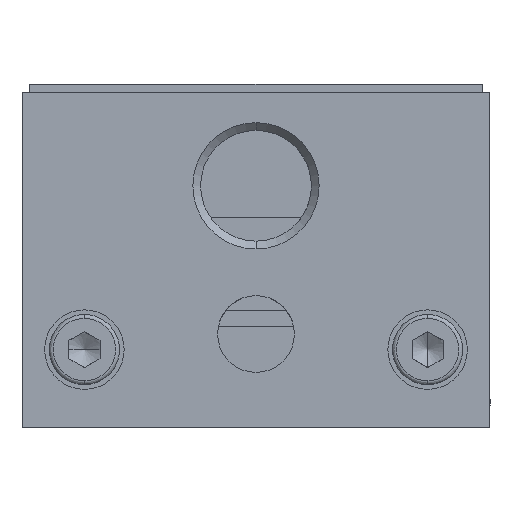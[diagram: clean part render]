
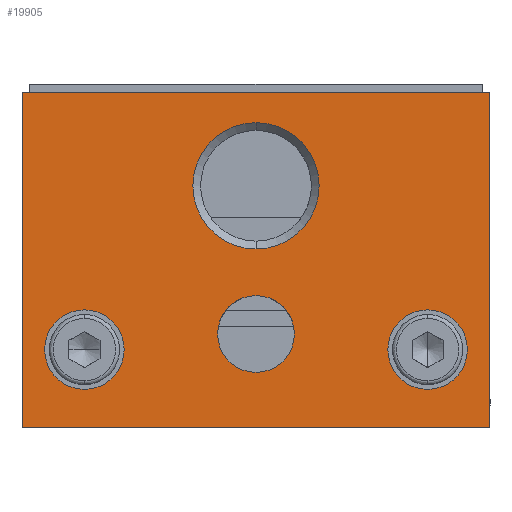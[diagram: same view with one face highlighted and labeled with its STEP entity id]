
A CAD part, left-side view. The second image highlights one B-rep face of the part: STEP entity #19905.
In plain terms, the highlighted planar face has unit normal (-1, 0, 0).
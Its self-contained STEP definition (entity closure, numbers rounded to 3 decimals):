
#9368 = DIRECTION ( 'NONE',  ( 0., 0., 1. ) ) ;
#9369 = DIRECTION ( 'NONE',  ( 1., 0., 0. ) ) ;
#9370 = CARTESIAN_POINT ( 'NONE',  ( -7., 15., 15.5 ) ) ;
#9371 = AXIS2_PLACEMENT_3D ( 'NONE', #9370, #9369, #9368 ) ;
#9372 = CIRCLE ( 'NONE', #9371, 4.05 ) ;
#9399 = DIRECTION ( 'NONE',  ( 0., -1., 0. ) ) ;
#9400 = DIRECTION ( 'NONE',  ( 1., 0., 0. ) ) ;
#9401 = CARTESIAN_POINT ( 'NONE',  ( -7., 15., 6. ) ) ;
#9402 = AXIS2_PLACEMENT_3D ( 'NONE', #9401, #9400, #9399 ) ;
#9407 = CIRCLE ( 'NONE', #9402, 2.459 ) ;
#9410 = DIRECTION ( 'NONE',  ( 0., -1., 0. ) ) ;
#9411 = DIRECTION ( 'NONE',  ( 1., 0., 0. ) ) ;
#9412 = CARTESIAN_POINT ( 'NONE',  ( -7., 4., 5. ) ) ;
#9413 = AXIS2_PLACEMENT_3D ( 'NONE', #9412, #9411, #9410 ) ;
#9414 = CIRCLE ( 'NONE', #9413, 2.55 ) ;
#9455 = DIRECTION ( 'NONE',  ( 0., -1., 0. ) ) ;
#9456 = DIRECTION ( 'NONE',  ( 1., 0., 0. ) ) ;
#9457 = CARTESIAN_POINT ( 'NONE',  ( -7., 26., 5. ) ) ;
#9458 = AXIS2_PLACEMENT_3D ( 'NONE', #9457, #9456, #9455 ) ;
#9459 = CIRCLE ( 'NONE', #9458, 2.55 ) ;
#9476 = CARTESIAN_POINT ( 'NONE',  ( -7., 0., 21.5 ) ) ;
#9477 = DIRECTION ( 'NONE',  ( 0., 1., 0. ) ) ;
#9478 = VECTOR ( 'NONE', #9477, 1000. ) ;
#9479 = CARTESIAN_POINT ( 'NONE',  ( -7., 15., 21.5 ) ) ;
#9480 = LINE ( 'NONE', #9479, #9478 ) ;
#9481 = CARTESIAN_POINT ( 'NONE',  ( -7., 30., 21.5 ) ) ;
#9757 = CARTESIAN_POINT ( 'NONE',  ( -7., 0., 0. ) ) ;
#9758 = DIRECTION ( 'NONE',  ( 0., 0., 1. ) ) ;
#9759 = VECTOR ( 'NONE', #9758, 1000. ) ;
#9760 = CARTESIAN_POINT ( 'NONE',  ( -7., 0., 10.75 ) ) ;
#9761 = LINE ( 'NONE', #9760, #9759 ) ;
#9769 = DIRECTION ( 'NONE',  ( 0., 1., 0. ) ) ;
#9770 = VECTOR ( 'NONE', #9769, 1000. ) ;
#9771 = CARTESIAN_POINT ( 'NONE',  ( -7., 30., 0. ) ) ;
#9772 = LINE ( 'NONE', #9771, #9770 ) ;
#9773 = CARTESIAN_POINT ( 'NONE',  ( -7., 30., 0. ) ) ;
#9774 = DIRECTION ( 'NONE',  ( 0., 0., 1. ) ) ;
#9775 = VECTOR ( 'NONE', #9774, 1000. ) ;
#9776 = CARTESIAN_POINT ( 'NONE',  ( -7., 30., 0. ) ) ;
#9777 = LINE ( 'NONE', #9776, #9775 ) ;
#9778 = DIRECTION ( 'NONE',  ( 0., -1., 0. ) ) ;
#9779 = DIRECTION ( 'NONE',  ( -1., 0., 0. ) ) ;
#9780 = CARTESIAN_POINT ( 'NONE',  ( -7., 15., 10.75 ) ) ;
#9781 = AXIS2_PLACEMENT_3D ( 'NONE', #9780, #9779, #9778 ) ;
#9782 = PLANE ( 'NONE',  #9781 ) ;
#9783 = FACE_BOUND ( 'NONE', #19898, .T. ) ;
#9784 = FACE_BOUND ( 'NONE', #19895, .T. ) ;
#9785 = FACE_BOUND ( 'NONE', #19917, .T. ) ;
#9786 = FACE_BOUND ( 'NONE', #19914, .T. ) ;
#9787 = FACE_OUTER_BOUND ( 'NONE', #19906, .T. ) ;
#13536 = VERTEX_POINT ( 'NONE', #24138 ) ;
#13699 = EDGE_CURVE ( 'NONE', #13700, #13536, #24514, .T. ) ;
#13700 = VERTEX_POINT ( 'NONE', #24509 ) ;
#13735 = EDGE_CURVE ( 'NONE', #13736, #13765, #24577, .T. ) ;
#13736 = VERTEX_POINT ( 'NONE', #24572 ) ;
#13751 = VERTEX_POINT ( 'NONE', #24609 ) ;
#13753 = EDGE_CURVE ( 'NONE', #13754, #13751, #24608, .T. ) ;
#13754 = VERTEX_POINT ( 'NONE', #24603 ) ;
#13765 = VERTEX_POINT ( 'NONE', #24646 ) ;
#13769 = VERTEX_POINT ( 'NONE', #24641 ) ;
#13771 = EDGE_CURVE ( 'NONE', #13772, #13769, #24640, .T. ) ;
#13772 = VERTEX_POINT ( 'NONE', #24635 ) ;
#19472 = EDGE_CURVE ( 'NONE', #13536, #13700, #9372, .T. ) ;
#19488 = EDGE_CURVE ( 'NONE', #13769, #13772, #9414, .T. ) ;
#19498 = EDGE_CURVE ( 'NONE', #13765, #13736, #9407, .T. ) ;
#19505 = EDGE_CURVE ( 'NONE', #13751, #13754, #9459, .T. ) ;
#19540 = VERTEX_POINT ( 'NONE', #9481 ) ;
#19542 = EDGE_CURVE ( 'NONE', #19543, #19540, #9480, .T. ) ;
#19543 = VERTEX_POINT ( 'NONE', #9476 ) ;
#19732 = EDGE_CURVE ( 'NONE', #19733, #19543, #9761, .T. ) ;
#19733 = VERTEX_POINT ( 'NONE', #9757 ) ;
#19893 = ORIENTED_EDGE ( 'NONE', *, *, #13771, .T. ) ;
#19894 = ORIENTED_EDGE ( 'NONE', *, *, #19488, .T. ) ;
#19895 = EDGE_LOOP ( 'NONE', ( #19896, #19897 ) ) ;
#19896 = ORIENTED_EDGE ( 'NONE', *, *, #13753, .T. ) ;
#19897 = ORIENTED_EDGE ( 'NONE', *, *, #19505, .T. ) ;
#19898 = EDGE_LOOP ( 'NONE', ( #19899, #19900 ) ) ;
#19899 = ORIENTED_EDGE ( 'NONE', *, *, #13735, .T. ) ;
#19900 = ORIENTED_EDGE ( 'NONE', *, *, #19498, .T. ) ;
#19905 = ADVANCED_FACE ( 'NONE', ( #9787, #9786, #9785, #9784, #9783 ), #9782, .T. ) ;
#19906 = EDGE_LOOP ( 'NONE', ( #19907, #19908, #19909, #19912 ) ) ;
#19907 = ORIENTED_EDGE ( 'NONE', *, *, #19732, .T. ) ;
#19908 = ORIENTED_EDGE ( 'NONE', *, *, #19542, .T. ) ;
#19909 = ORIENTED_EDGE ( 'NONE', *, *, #19910, .F. ) ;
#19910 = EDGE_CURVE ( 'NONE', #19911, #19540, #9777, .T. ) ;
#19911 = VERTEX_POINT ( 'NONE', #9773 ) ;
#19912 = ORIENTED_EDGE ( 'NONE', *, *, #19913, .F. ) ;
#19913 = EDGE_CURVE ( 'NONE', #19733, #19911, #9772, .T. ) ;
#19914 = EDGE_LOOP ( 'NONE', ( #19915, #19916 ) ) ;
#19915 = ORIENTED_EDGE ( 'NONE', *, *, #13699, .T. ) ;
#19916 = ORIENTED_EDGE ( 'NONE', *, *, #19472, .T. ) ;
#19917 = EDGE_LOOP ( 'NONE', ( #19893, #19894 ) ) ;
#24138 = CARTESIAN_POINT ( 'NONE',  ( -7., 15., 11.45 ) ) ;
#24509 = CARTESIAN_POINT ( 'NONE',  ( -7., 15., 19.55 ) ) ;
#24510 = DIRECTION ( 'NONE',  ( 0., 0., 1. ) ) ;
#24511 = DIRECTION ( 'NONE',  ( 1., 0., 0. ) ) ;
#24512 = CARTESIAN_POINT ( 'NONE',  ( -7., 15., 15.5 ) ) ;
#24513 = AXIS2_PLACEMENT_3D ( 'NONE', #24512, #24511, #24510 ) ;
#24514 = CIRCLE ( 'NONE', #24513, 4.05 ) ;
#24572 = CARTESIAN_POINT ( 'NONE',  ( -7., 12.542, 6. ) ) ;
#24573 = DIRECTION ( 'NONE',  ( 0., -1., 0. ) ) ;
#24574 = DIRECTION ( 'NONE',  ( 1., 0., 0. ) ) ;
#24575 = CARTESIAN_POINT ( 'NONE',  ( -7., 15., 6. ) ) ;
#24576 = AXIS2_PLACEMENT_3D ( 'NONE', #24575, #24574, #24573 ) ;
#24577 = CIRCLE ( 'NONE', #24576, 2.459 ) ;
#24603 = CARTESIAN_POINT ( 'NONE',  ( -7., 23.45, 5. ) ) ;
#24604 = DIRECTION ( 'NONE',  ( 0., -1., 0. ) ) ;
#24605 = DIRECTION ( 'NONE',  ( 1., 0., 0. ) ) ;
#24606 = CARTESIAN_POINT ( 'NONE',  ( -7., 26., 5. ) ) ;
#24607 = AXIS2_PLACEMENT_3D ( 'NONE', #24606, #24605, #24604 ) ;
#24608 = CIRCLE ( 'NONE', #24607, 2.55 ) ;
#24609 = CARTESIAN_POINT ( 'NONE',  ( -7., 28.55, 5. ) ) ;
#24635 = CARTESIAN_POINT ( 'NONE',  ( -7., 1.45, 5. ) ) ;
#24636 = DIRECTION ( 'NONE',  ( 0., -1., 0. ) ) ;
#24637 = DIRECTION ( 'NONE',  ( 1., 0., 0. ) ) ;
#24638 = CARTESIAN_POINT ( 'NONE',  ( -7., 4., 5. ) ) ;
#24639 = AXIS2_PLACEMENT_3D ( 'NONE', #24638, #24637, #24636 ) ;
#24640 = CIRCLE ( 'NONE', #24639, 2.55 ) ;
#24641 = CARTESIAN_POINT ( 'NONE',  ( -7., 6.55, 5. ) ) ;
#24646 = CARTESIAN_POINT ( 'NONE',  ( -7., 17.459, 6. ) ) ;
